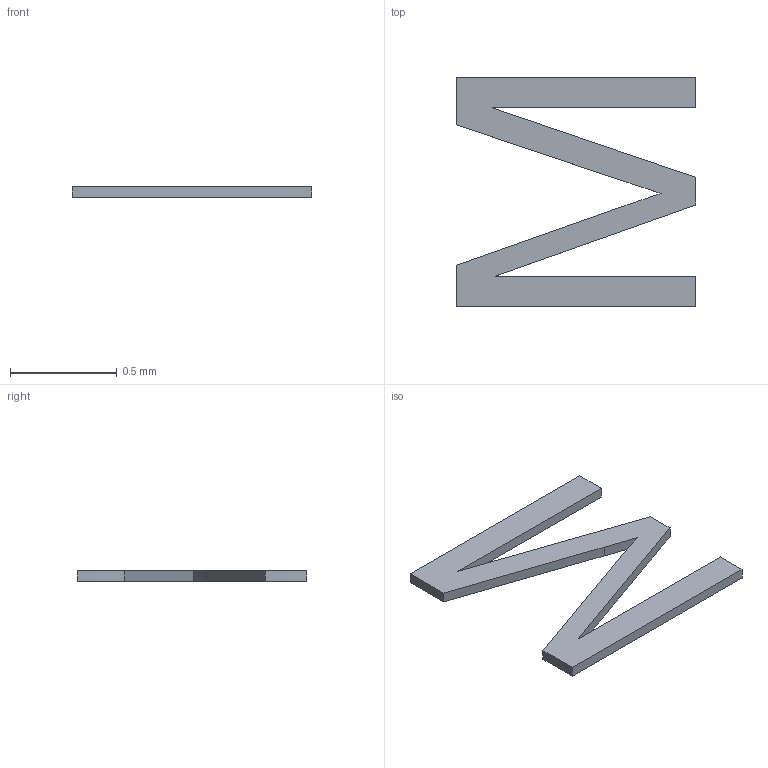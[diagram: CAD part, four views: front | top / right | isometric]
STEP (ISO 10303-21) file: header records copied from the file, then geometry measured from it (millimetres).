
FILE_DESCRIPTION(/* description */ ('STEP AP242 Edition 2','CAx-IF Rec.Pracs.---Representation and Presentation of Product Manufacturing Information (PMI)---4.0---2014-10-13','CAx-IF Rec.Pracs.---3D Tessellated Geometry---0.4---2014-09-14','2;1','CAx-IF Rec.Pracs.---User Defined Attributes---1.5---2016-08-15'),/* implementation_level */ '2;1');
FILE_NAME(/* name */ 'Drone Layout - Surface 298',/* time_stamp */ '2026-10-04T22:22:55Z',/* author */ (''),/* organization */ (''),/* preprocessor_version */ 'ST-DEVELOPER v20',/* originating_system */ 'ONSHAPE BY PTC INC, 1.221',/* authorisation */ ' ');
FILE_SCHEMA (('AP242_MANAGED_MODEL_BASED_3D_ENGINEERING_MIM_LF { 1 0 10303 442 3 1 4 }'));
Length unit declared in the file: metre
Products named in the file (1): Text_ITGMPU
Bounding box: 1.12 x 1.07 x 0.05 mm (x, y, z)
Volume: 0 mm3; surface area: 1.6 mm2
Topology: 1 solids, 1 shells, 17 faces, 45 edges, 30 vertices
Faces by surface type: plane 15, cylinder 2
Entity records: 538 total; most frequent: CARTESIAN_POINT 99, ORIENTED_EDGE 90, DIRECTION 83, EDGE_CURVE 45, LINE 39, VECTOR 39, VERTEX_POINT 30, AXIS2_PLACEMENT_3D 22
